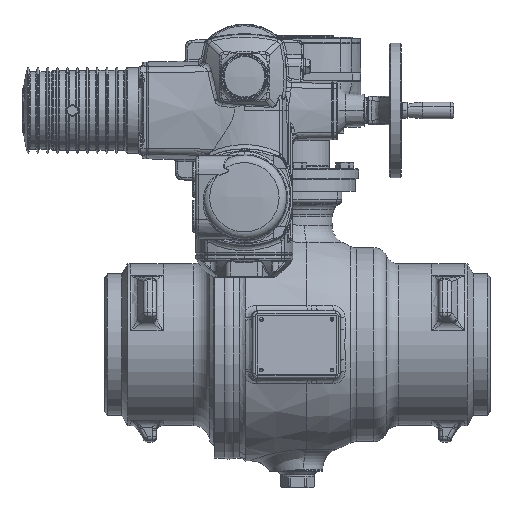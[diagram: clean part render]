
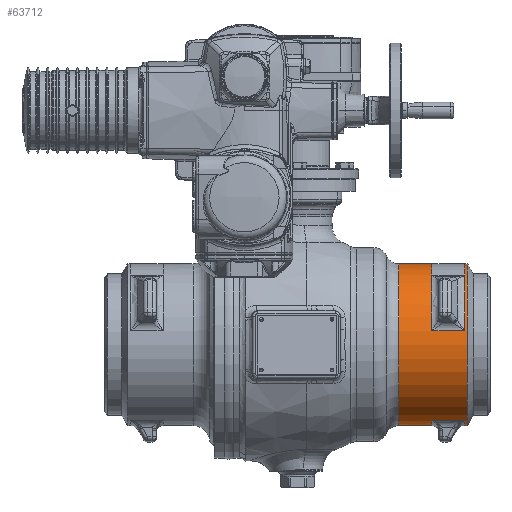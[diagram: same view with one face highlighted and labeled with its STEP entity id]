
A CAD part, front view. The second image highlights one B-rep face of the part: STEP entity #63712.
In plain terms, the highlighted cylindrical face has radius 96 mm (diameter 192 mm), a partial arc.
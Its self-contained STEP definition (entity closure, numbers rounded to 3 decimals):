
#14465=CARTESIAN_POINT('',(201.658,0.,0.));
#14466=DIRECTION('',(-1.,0.,0.));
#14467=DIRECTION('',(0.,0.,-1.));
#14468=AXIS2_PLACEMENT_3D('',#14465,#14466,#14467);
#14470=DIRECTION('',(-1.,0.,0.));
#14471=VECTOR('',#14470,3.385);
#14472=CARTESIAN_POINT('',(201.658,0.,-96.));
#14473=LINE('',#14472,#14471);
#14474=DIRECTION('',(-1.,0.,0.));
#14475=VECTOR('',#14474,38.774);
#14476=CARTESIAN_POINT('',(198.274,-32.815,
-90.217));
#14477=LINE('',#14476,#14475);
#14478=DIRECTION('',(-1.,0.,0.));
#14479=VECTOR('',#14478,39.5);
#14480=CARTESIAN_POINT('',(159.5,0.,-96.));
#14481=LINE('',#14480,#14479);
#14482=CARTESIAN_POINT('',(120.,0.,0.));
#14483=DIRECTION('',(1.,0.,0.));
#14484=DIRECTION('',(0.,0.,1.));
#14485=AXIS2_PLACEMENT_3D('',#14482,#14483,#14484);
#14487=DIRECTION('',(-1.,0.,0.));
#14488=VECTOR('',#14487,39.5);
#14489=CARTESIAN_POINT('',(159.5,0.,96.));
#14490=LINE('',#14489,#14488);
#14491=CARTESIAN_POINT('',(159.5,0.,0.));
#14492=DIRECTION('',(-1.,0.,0.));
#14493=DIRECTION('',(0.,-0.512,0.859));
#14494=AXIS2_PLACEMENT_3D('',#14491,#14492,#14493);
#14496=DIRECTION('',(-1.,0.,0.));
#14497=VECTOR('',#14496,38.774);
#14498=CARTESIAN_POINT('',(198.274,-94.538,
16.69));
#14499=LINE('',#14498,#14497);
#14500=CARTESIAN_POINT('',(198.274,0.,0.));
#14501=DIRECTION('',(1.,0.,0.));
#14502=DIRECTION('',(0.,0.,1.));
#14503=AXIS2_PLACEMENT_3D('',#14500,#14501,#14502);
#14505=DIRECTION('',(-1.,0.,0.));
#14506=VECTOR('',#14505,3.385);
#14507=CARTESIAN_POINT('',(201.658,0.,96.));
#14508=LINE('',#14507,#14506);
#14567=CARTESIAN_POINT('',(198.274,-32.815,
-90.217));
#14569=CARTESIAN_POINT('',(198.274,0.,0.));
#14570=DIRECTION('',(1.,0.,0.));
#14571=DIRECTION('',(0.,-0.342,-0.94));
#14572=AXIS2_PLACEMENT_3D('',#14569,#14570,#14571);
#14688=CARTESIAN_POINT('',(159.5,0.,0.));
#14689=DIRECTION('',(-1.,0.,0.));
#14690=DIRECTION('',(0.,0.,-1.));
#14691=AXIS2_PLACEMENT_3D('',#14688,#14689,#14690);
#14786=CARTESIAN_POINT('',(159.5,-32.815,-90.217));
#23640=CARTESIAN_POINT('',(159.5,-94.538,16.69));
#23642=CARTESIAN_POINT('',(159.5,0.,0.));
#23643=DIRECTION('',(-1.,0.,0.));
#23644=DIRECTION('',(0.,-0.985,0.174));
#23645=AXIS2_PLACEMENT_3D('',#23642,#23643,#23644);
#23754=CARTESIAN_POINT('',(198.274,0.,0.));
#23755=DIRECTION('',(1.,0.,0.));
#23756=DIRECTION('',(0.,-0.512,0.859));
#23757=AXIS2_PLACEMENT_3D('',#23754,#23755,#23756);
#23842=CARTESIAN_POINT('',(198.274,-94.538,
16.69));
#31183=CARTESIAN_POINT('',(120.,0.,96.));
#31184=CARTESIAN_POINT('',(120.,0.,-96.));
#31185=VERTEX_POINT('',#31183);
#31186=VERTEX_POINT('',#31184);
#31323=CARTESIAN_POINT('',(201.658,0.,96.));
#31324=CARTESIAN_POINT('',(201.658,0.,-96.));
#31325=VERTEX_POINT('',#31323);
#31326=VERTEX_POINT('',#31324);
#32316=CARTESIAN_POINT('',(159.5,0.,-96.));
#32317=VERTEX_POINT('',#32316);
#32318=CARTESIAN_POINT('',(159.5,0.,96.));
#32319=VERTEX_POINT('',#32318);
#32320=CARTESIAN_POINT('',(159.5,-49.127,82.478));
#32321=VERTEX_POINT('',#32320);
#32322=CARTESIAN_POINT('',(198.274,0.,96.));
#32323=CARTESIAN_POINT('',(198.274,-49.127,
82.478));
#32324=VERTEX_POINT('',#32322);
#32325=VERTEX_POINT('',#32323);
#32391=VERTEX_POINT('',#23640);
#32411=VERTEX_POINT('',#23842);
#32435=VERTEX_POINT('',#14567);
#32455=VERTEX_POINT('',#14786);
#32456=CARTESIAN_POINT('',(198.274,0.,-96.));
#32457=VERTEX_POINT('',#32456);
#63683=CARTESIAN_POINT('',(248.275,0.,0.));
#63684=DIRECTION('',(-1.,0.,0.));
#63685=DIRECTION('',(0.,0.,1.));
#63686=AXIS2_PLACEMENT_3D('',#63683,#63684,#63685);
#63687=CYLINDRICAL_SURFACE('',#63686,96.);
#63689=ORIENTED_EDGE('',*,*,#63688,.F.);
#63690=ORIENTED_EDGE('',*,*,#63668,.T.);
#63692=ORIENTED_EDGE('',*,*,#63691,.F.);
#63694=ORIENTED_EDGE('',*,*,#63693,.T.);
#63696=ORIENTED_EDGE('',*,*,#63695,.F.);
#63697=ORIENTED_EDGE('',*,*,#63660,.T.);
#63699=ORIENTED_EDGE('',*,*,#63698,.F.);
#63700=ORIENTED_EDGE('',*,*,#63656,.F.);
#63701=ORIENTED_EDGE('',*,*,#63654,.F.);
#63703=ORIENTED_EDGE('',*,*,#63702,.F.);
#63705=ORIENTED_EDGE('',*,*,#63704,.F.);
#63707=ORIENTED_EDGE('',*,*,#63706,.F.);
#63708=ORIENTED_EDGE('',*,*,#63650,.F.);
#63709=ORIENTED_EDGE('',*,*,#63648,.F.);
#63710=EDGE_LOOP('',(#63689,#63690,#63692,#63694,#63696,#63697,#63699,#63700,
#63701,#63703,#63705,#63707,#63708,#63709));
#63711=FACE_OUTER_BOUND('',#63710,.F.);
#63712=ADVANCED_FACE('',(#63711),#63687,.T.);
#14469=CIRCLE('',#14468,96.);
#14486=CIRCLE('',#14485,96.);
#14495=CIRCLE('',#14494,96.);
#14504=CIRCLE('',#14503,96.);
#14573=CIRCLE('',#14572,96.);
#14692=CIRCLE('',#14691,96.);
#23646=CIRCLE('',#23645,96.);
#23758=CIRCLE('',#23757,96.);
#63648=EDGE_CURVE('',#31325,#32324,#14508,.T.);
#63650=EDGE_CURVE('',#32324,#32325,#14504,.T.);
#63654=EDGE_CURVE('',#32321,#32319,#14495,.T.);
#63656=EDGE_CURVE('',#32319,#31185,#14490,.T.);
#63660=EDGE_CURVE('',#32317,#31186,#14481,.T.);
#63668=EDGE_CURVE('',#31326,#32457,#14473,.T.);
#63688=EDGE_CURVE('',#31326,#31325,#14469,.T.);
#63691=EDGE_CURVE('',#32435,#32457,#14573,.T.);
#63693=EDGE_CURVE('',#32435,#32455,#14477,.T.);
#63695=EDGE_CURVE('',#32317,#32455,#14692,.T.);
#63698=EDGE_CURVE('',#31185,#31186,#14486,.T.);
#63702=EDGE_CURVE('',#32391,#32321,#23646,.T.);
#63704=EDGE_CURVE('',#32411,#32391,#14499,.T.);
#63706=EDGE_CURVE('',#32325,#32411,#23758,.T.);
